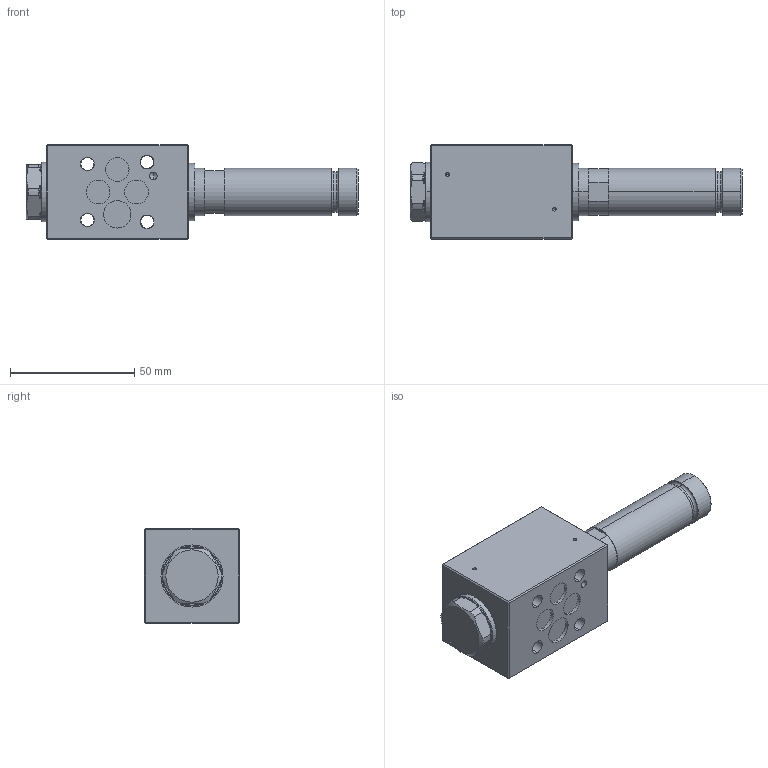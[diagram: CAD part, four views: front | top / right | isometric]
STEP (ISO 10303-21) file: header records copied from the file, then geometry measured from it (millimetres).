
FILE_DESCRIPTION (( 'STEP AP203' ), '1' );
FILE_NAME ('WDMFB04-4_2-Bside.step', '2013-07-08T06:40:31', ( 'Wandfluh AG' ), ( 'Wandfluh AG' ), 'SwSTEP 2.0', 'SolidWorks 2012', '' );
FILE_SCHEMA (( 'CONFIG_CONTROL_DESIGN' ));
Length unit declared in the file: millimetre
Products named in the file (1): WDMFB04-4_2-Bside
Bounding box: 133.5 x 38 x 38 mm (x, y, z)
Volume: 98688 mm3; surface area: 26882.7 mm2
Topology: 8 solids, 8 shells, 1091 faces, 3027 edges, 1984 vertices
Faces by surface type: plane 702, cylinder 292, cone 46, torus 32, bspline 19
Entity records: 36178 total; most frequent: CARTESIAN_POINT 7410, DIRECTION 6139, ORIENTED_EDGE 6038, EDGE_CURVE 3019, AXIS2_PLACEMENT_3D 2137, VERTEX_POINT 1984, VECTOR 1865, LINE 1865
